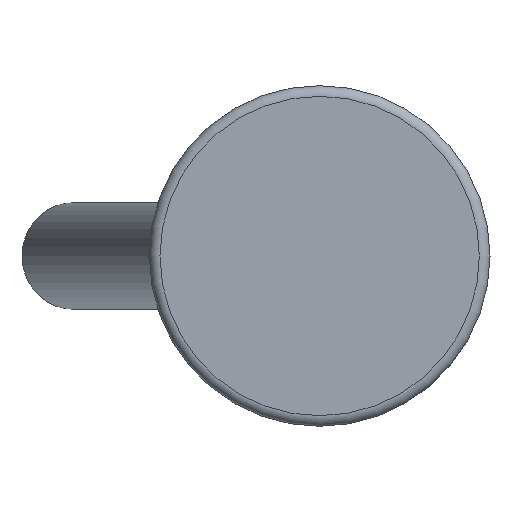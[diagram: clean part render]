
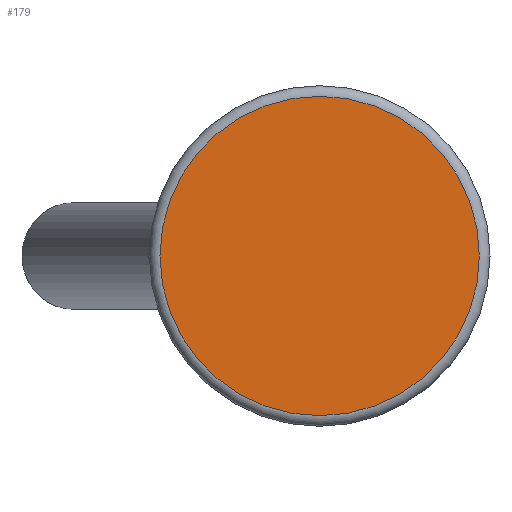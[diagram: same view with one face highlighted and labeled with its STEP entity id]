
A CAD part, front view. The second image highlights one B-rep face of the part: STEP entity #179.
In plain terms, the highlighted planar face has unit normal (0, -1, 0).
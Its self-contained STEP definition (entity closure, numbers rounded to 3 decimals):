
#179 = ADVANCED_FACE( '', ( #351 ), #352, .F. );
#351 = FACE_OUTER_BOUND( '', #533, .T. );
#352 = PLANE( '', #534 );
#533 = EDGE_LOOP( '', ( #779 ) );
#534 = AXIS2_PLACEMENT_3D( '', #780, #781, #782 );
#779 = ORIENTED_EDGE( '', *, *, #1059, .T. );
#780 = CARTESIAN_POINT( '', ( 15., 0., 0. ) );
#781 = DIRECTION( '', ( 0., 1., 0. ) );
#782 = DIRECTION( '', ( 0., 0., 1. ) );
#1059 = EDGE_CURVE( '', #1233, #1233, #1234, .T. );
#1233 = VERTEX_POINT( '', #1536 );
#1234 = CIRCLE( '', #1537, 15. );
#1536 = CARTESIAN_POINT( '', ( 0., 0., -15. ) );
#1537 = AXIS2_PLACEMENT_3D( '', #1871, #1872, #1873 );
#1871 = CARTESIAN_POINT( '', ( 0., 0., 0. ) );
#1872 = DIRECTION( '', ( 0., -1., 0. ) );
#1873 = DIRECTION( '', ( 0., 0., -1. ) );
